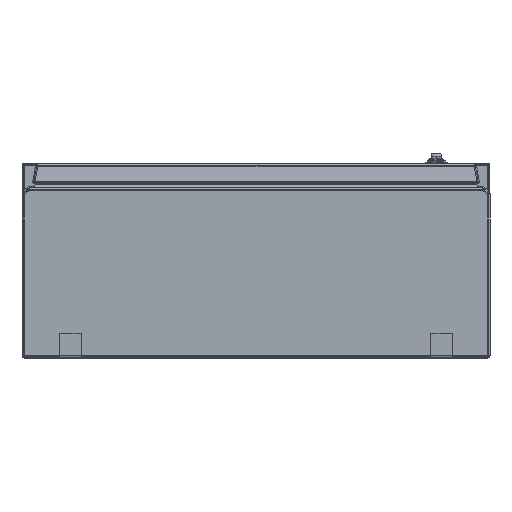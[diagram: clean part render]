
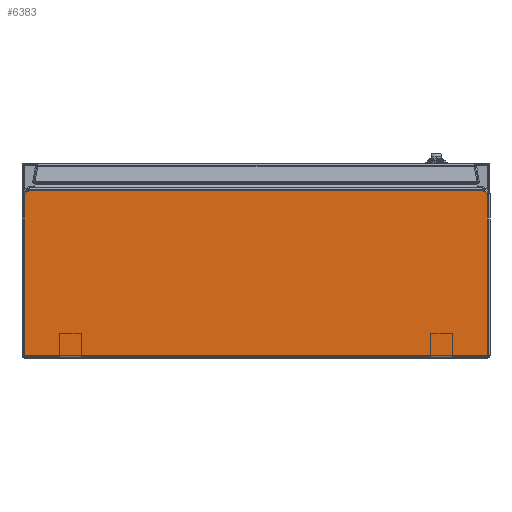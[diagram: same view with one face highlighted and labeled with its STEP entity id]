
A CAD part, front view. The second image highlights one B-rep face of the part: STEP entity #6383.
In plain terms, the highlighted planar face has unit normal (0, -1, 0).
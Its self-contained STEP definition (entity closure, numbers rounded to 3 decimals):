
#1482 = CARTESIAN_POINT ( 'NONE',  ( 297., -372.5, -247. ) ) ;
#2862 = VERTEX_POINT ( 'NONE', #20022 ) ;
#3976 = DIRECTION ( 'NONE',  ( -0.819, 0., 0.574 ) ) ;
#4088 = DIRECTION ( 'NONE',  ( 0., 0., 1. ) ) ;
#4572 = ORIENTED_EDGE ( 'NONE', *, *, #31015, .T. ) ;
#5537 = VERTEX_POINT ( 'NONE', #23396 ) ;
#5603 = DIRECTION ( 'NONE',  ( 0., 0., -1. ) ) ;
#6383 = ADVANCED_FACE ( 'NONE', ( #8863 ), #18858, .T. ) ;
#6420 = DIRECTION ( 'NONE',  ( 0., -1., 0. ) ) ;
#7558 = VERTEX_POINT ( 'NONE', #1482 ) ;
#7591 = ORIENTED_EDGE ( 'NONE', *, *, #8617, .T. ) ;
#7959 = LINE ( 'NONE', #17943, #20368 ) ;
#8325 = CARTESIAN_POINT ( 'NONE',  ( 300., -372.5, -247. ) ) ;
#8348 = ORIENTED_EDGE ( 'NONE', *, *, #16140, .T. ) ;
#8617 = EDGE_CURVE ( 'NONE', #2862, #15859, #18029, .T. ) ;
#8863 = FACE_OUTER_BOUND ( 'NONE', #28382, .T. ) ;
#9412 = VECTOR ( 'NONE', #18312, 1000. ) ;
#9644 = LINE ( 'NONE', #19645, #21057 ) ;
#11791 = ORIENTED_EDGE ( 'NONE', *, *, #17950, .T. ) ;
#11992 = ORIENTED_EDGE ( 'NONE', *, *, #18737, .T. ) ;
#15101 = CARTESIAN_POINT ( 'NONE',  ( -297., -372.5, -247. ) ) ;
#15859 = VERTEX_POINT ( 'NONE', #15101 ) ;
#16140 = EDGE_CURVE ( 'NONE', #26933, #26687, #16419, .T. ) ;
#16406 = DIRECTION ( 'NONE',  ( 1., 0., 0. ) ) ;
#16419 = LINE ( 'NONE', #26410, #30972 ) ;
#16532 = LINE ( 'NONE', #26519, #26620 ) ;
#17541 = ORIENTED_EDGE ( 'NONE', *, *, #19529, .T. ) ;
#17943 = CARTESIAN_POINT ( 'NONE',  ( -297., -372.5, -39.562 ) ) ;
#17950 = EDGE_CURVE ( 'NONE', #7558, #26933, #16532, .T. ) ;
#18029 = LINE ( 'NONE', #28025, #24582 ) ;
#18312 = DIRECTION ( 'NONE',  ( 1., 0., 0. ) ) ;
#18737 = EDGE_CURVE ( 'NONE', #5537, #2862, #7959, .T. ) ;
#18858 = PLANE ( 'NONE',  #21647 ) ;
#19529 = EDGE_CURVE ( 'NONE', #15859, #7558, #30768, .T. ) ;
#19645 = CARTESIAN_POINT ( 'NONE',  ( 300., -372.5, -35. ) ) ;
#20022 = CARTESIAN_POINT ( 'NONE',  ( -297., -372.5, -39.562 ) ) ;
#20368 = VECTOR ( 'NONE', #27931, 1000. ) ;
#21057 = VECTOR ( 'NONE', #29642, 1000. ) ;
#21647 = AXIS2_PLACEMENT_3D ( 'NONE', #28860, #6420, #16406 ) ;
#23396 = CARTESIAN_POINT ( 'NONE',  ( -290.485, -372.5, -35. ) ) ;
#24360 = CARTESIAN_POINT ( 'NONE',  ( 297., -372.5, -39.562 ) ) ;
#24582 = VECTOR ( 'NONE', #5603, 1000. ) ;
#25217 = CARTESIAN_POINT ( 'NONE',  ( 290.485, -372.5, -35. ) ) ;
#26410 = CARTESIAN_POINT ( 'NONE',  ( 293.995, -372.5, -37.457 ) ) ;
#26519 = CARTESIAN_POINT ( 'NONE',  ( 297., -372.5, -250. ) ) ;
#26620 = VECTOR ( 'NONE', #4088, 1000. ) ;
#26687 = VERTEX_POINT ( 'NONE', #25217 ) ;
#26933 = VERTEX_POINT ( 'NONE', #24360 ) ;
#27931 = DIRECTION ( 'NONE',  ( -0.819, 0., -0.574 ) ) ;
#28025 = CARTESIAN_POINT ( 'NONE',  ( -297., -372.5, -250. ) ) ;
#28382 = EDGE_LOOP ( 'NONE', ( #11791, #8348, #4572, #11992, #7591, #17541 ) ) ;
#28860 = CARTESIAN_POINT ( 'NONE',  ( 300., -372.5, -250. ) ) ;
#29642 = DIRECTION ( 'NONE',  ( -1., 0., 0. ) ) ;
#30768 = LINE ( 'NONE', #8325, #9412 ) ;
#30972 = VECTOR ( 'NONE', #3976, 1000. ) ;
#31015 = EDGE_CURVE ( 'NONE', #26687, #5537, #9644, .T. ) ;
